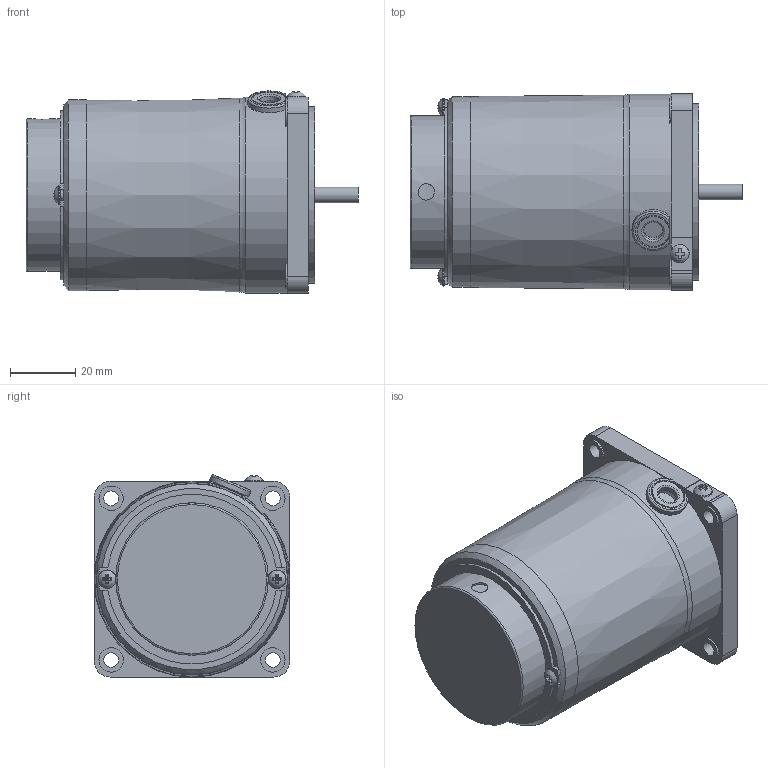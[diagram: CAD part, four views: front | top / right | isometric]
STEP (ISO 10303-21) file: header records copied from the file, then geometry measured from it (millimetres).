
FILE_DESCRIPTION(/* description */ (''),/* implementation_level */ '2;1');
FILE_NAME(/* name */ 'Y:\제품연구개발\3. 도면\3. 고객배포용\3D_홈페이지용\01-1 Standard AC SG Series\05-1 UNIT TYPE SPEED CONTROL MOTOR(V12)\SG6I06_-V12\SG6I06G_-V12.stp',/* time_stamp */ '2023-12-06T14:16:59+09:00',/* author */ ('shyi1037'),/* organization */ (''),/* preprocessor_version */ 'ST-DEVELOPER v18.1',/* originating_system */ 'Autodesk Inventor 2022',/* authorisation */ '');
FILE_SCHEMA (('AUTOMOTIVE_DESIGN { 1 0 10303 214 3 1 1 }'));
Length unit declared in the file: millimetre
Products named in the file (1): SG6I06G_-V12
Bounding box: 101.7 x 60 x 61.91 mm (x, y, z)
Volume: 229835.5 mm3; surface area: 25313.5 mm2
Topology: 1 solids, 2 shells, 172 faces, 466 edges, 304 vertices
Faces by surface type: plane 107, cylinder 51, torus 8, bspline 3, cone 3
Full cylindrical faces by diameter (mm): 3 x2, 4.5 x4, 4.76 x1, 5 x1, 5.6 x1, 6 x1, 7.5 x4, 10.1 x1, 25 x1, 46.7 x1, 54 x1, 58.5 x1, 60 x1
Entity records: 6125 total; most frequent: CARTESIAN_POINT 1540, ORIENTED_EDGE 932, DIRECTION 889, EDGE_CURVE 466, AXIS2_PLACEMENT_3D 317, VERTEX_POINT 304, LINE 255, VECTOR 255
